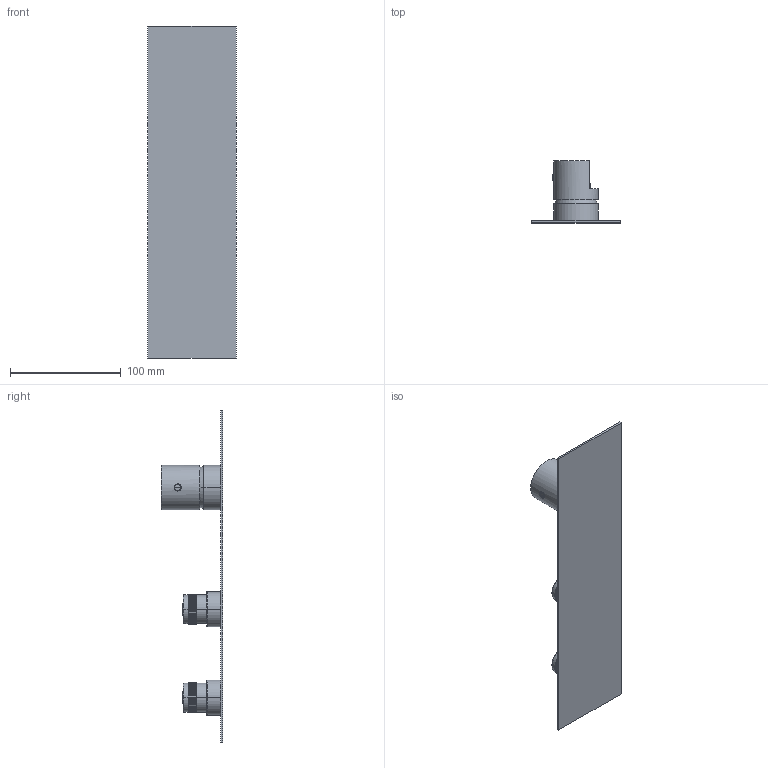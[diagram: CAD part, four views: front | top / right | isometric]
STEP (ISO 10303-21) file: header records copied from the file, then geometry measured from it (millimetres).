
FILE_DESCRIPTION((''),'2;1');
FILE_NAME('89000V221_SW0001','2025-11-25T10:18:57',('carloff'),(''),'CREO PARAMETRIC BY PTC INC, 2022014','CREO PARAMETRIC BY PTC INC, 2022014','');
FILE_SCHEMA(('CONFIG_CONTROL_DESIGN'));
Products named in the file (1): 89000V221_SW0001
Bounding box: 80 x 55.7 x 300 mm (x, y, z)
Volume: 153623.4 mm3; surface area: 63132.2 mm2
Topology: 1 solids, 1 shells, 3309 faces, 8245 edges, 5448 vertices
Faces by surface type: bspline 2562, cylinder 704, plane 23, torus 12, sphere 6, cone 2
Entity records: 140226 total; most frequent: CARTESIAN_POINT 78854, ORIENTED_EDGE 16478, EDGE_CURVE 8239, VERTEX_POINT 5448, B_SPLINE_CURVE_WITH_KNOTS 5194, DIRECTION 4860, EDGE_LOOP 3827, FACE_OUTER_BOUND 3309
